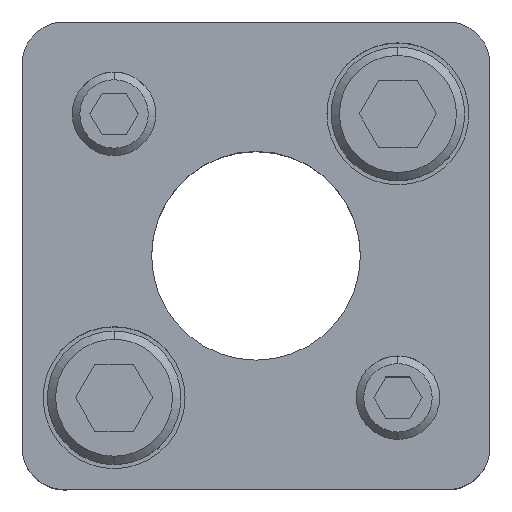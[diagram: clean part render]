
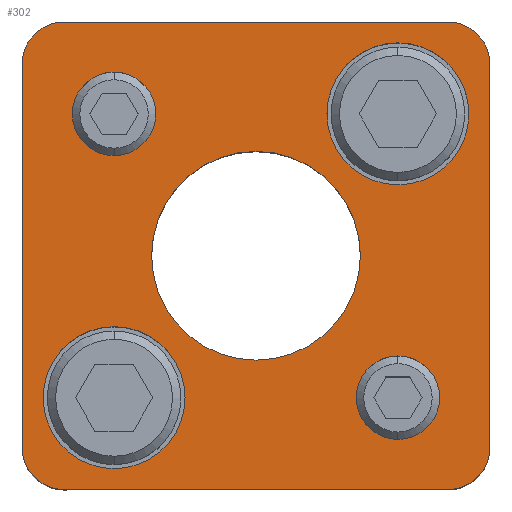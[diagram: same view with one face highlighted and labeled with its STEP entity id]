
A CAD part, top view. The second image highlights one B-rep face of the part: STEP entity #302.
In plain terms, the highlighted planar face has unit normal (0, 0, 1).
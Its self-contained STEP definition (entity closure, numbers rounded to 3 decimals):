
#161=PLANE('',#2460);
#224=FACE_BOUND('',#627,.T.);
#225=FACE_BOUND('',#628,.T.);
#226=FACE_BOUND('',#629,.T.);
#227=FACE_BOUND('',#630,.T.);
#228=FACE_BOUND('',#631,.T.);
#229=FACE_BOUND('',#632,.T.);
#302=ADVANCED_FACE('',(#224,#225,#226,#227,#228,#229),#161,.T.);
#627=EDGE_LOOP('',(#1277,#1278,#1279,#1280,#1281,#1282,#1283,#1284));
#628=EDGE_LOOP('',(#1285,#1286));
#629=EDGE_LOOP('',(#1287,#1288));
#630=EDGE_LOOP('',(#1289,#1290));
#631=EDGE_LOOP('',(#1291,#1292));
#632=EDGE_LOOP('',(#1293,#1294));
#779=LINE('',#3601,#949);
#780=LINE('',#3605,#950);
#781=LINE('',#3609,#951);
#782=LINE('',#3613,#952);
#949=VECTOR('',#2877,1.);
#950=VECTOR('',#2880,1.);
#951=VECTOR('',#2883,1.);
#952=VECTOR('',#2886,1.);
#1277=ORIENTED_EDGE('',*,*,#2005,.T.);
#1278=ORIENTED_EDGE('',*,*,#2006,.T.);
#1279=ORIENTED_EDGE('',*,*,#2007,.T.);
#1280=ORIENTED_EDGE('',*,*,#2008,.T.);
#1281=ORIENTED_EDGE('',*,*,#2009,.T.);
#1282=ORIENTED_EDGE('',*,*,#2010,.T.);
#1283=ORIENTED_EDGE('',*,*,#2011,.T.);
#1284=ORIENTED_EDGE('',*,*,#2012,.T.);
#1285=ORIENTED_EDGE('',*,*,#2013,.F.);
#1286=ORIENTED_EDGE('',*,*,#2014,.F.);
#1287=ORIENTED_EDGE('',*,*,#2015,.F.);
#1288=ORIENTED_EDGE('',*,*,#2016,.F.);
#1289=ORIENTED_EDGE('',*,*,#1991,.F.);
#1290=ORIENTED_EDGE('',*,*,#1987,.F.);
#1291=ORIENTED_EDGE('',*,*,#1985,.F.);
#1292=ORIENTED_EDGE('',*,*,#1981,.F.);
#1293=ORIENTED_EDGE('',*,*,#2017,.T.);
#1294=ORIENTED_EDGE('',*,*,#2018,.T.);
#1755=VERTEX_POINT('',#3549);
#1756=VERTEX_POINT('',#3550);
#1759=VERTEX_POINT('',#3562);
#1760=VERTEX_POINT('',#3563);
#1771=VERTEX_POINT('',#3599);
#1772=VERTEX_POINT('',#3600);
#1773=VERTEX_POINT('',#3602);
#1774=VERTEX_POINT('',#3604);
#1775=VERTEX_POINT('',#3606);
#1776=VERTEX_POINT('',#3608);
#1777=VERTEX_POINT('',#3610);
#1778=VERTEX_POINT('',#3612);
#1779=VERTEX_POINT('',#3615);
#1780=VERTEX_POINT('',#3616);
#1781=VERTEX_POINT('',#3619);
#1782=VERTEX_POINT('',#3620);
#1783=VERTEX_POINT('',#3623);
#1784=VERTEX_POINT('',#3624);
#1981=EDGE_CURVE('',#1755,#1756,#2255,.T.);
#1985=EDGE_CURVE('',#1756,#1755,#2257,.T.);
#1987=EDGE_CURVE('',#1759,#1760,#2259,.T.);
#1991=EDGE_CURVE('',#1760,#1759,#2261,.T.);
#2005=EDGE_CURVE('',#1771,#1772,#2271,.T.);
#2006=EDGE_CURVE('',#1772,#1773,#779,.T.);
#2007=EDGE_CURVE('',#1773,#1774,#2272,.T.);
#2008=EDGE_CURVE('',#1774,#1775,#780,.T.);
#2009=EDGE_CURVE('',#1775,#1776,#2273,.T.);
#2010=EDGE_CURVE('',#1776,#1777,#781,.T.);
#2011=EDGE_CURVE('',#1777,#1778,#2274,.T.);
#2012=EDGE_CURVE('',#1778,#1771,#782,.T.);
#2013=EDGE_CURVE('',#1779,#1780,#2275,.T.);
#2014=EDGE_CURVE('',#1780,#1779,#2276,.T.);
#2015=EDGE_CURVE('',#1781,#1782,#2277,.T.);
#2016=EDGE_CURVE('',#1782,#1781,#2278,.T.);
#2017=EDGE_CURVE('',#1783,#1784,#2279,.T.);
#2018=EDGE_CURVE('',#1784,#1783,#2280,.T.);
#2255=CIRCLE('',#2424,5.);
#2257=CIRCLE('',#2427,5.);
#2259=CIRCLE('',#2431,5.);
#2261=CIRCLE('',#2434,5.);
#2271=CIRCLE('',#2450,5.);
#2272=CIRCLE('',#2451,5.);
#2273=CIRCLE('',#2452,5.);
#2274=CIRCLE('',#2453,5.);
#2275=CIRCLE('',#2454,8.5);
#2276=CIRCLE('',#2455,8.5);
#2277=CIRCLE('',#2456,8.5);
#2278=CIRCLE('',#2457,8.5);
#2279=CIRCLE('',#2458,12.5);
#2280=CIRCLE('',#2459,12.5);
#2424=AXIS2_PLACEMENT_3D('',#3548,#2815,#2816);
#2427=AXIS2_PLACEMENT_3D('',#3557,#2823,#2824);
#2431=AXIS2_PLACEMENT_3D('',#3561,#2831,#2832);
#2434=AXIS2_PLACEMENT_3D('',#3570,#2839,#2840);
#2450=AXIS2_PLACEMENT_3D('',#3598,#2875,#2876);
#2451=AXIS2_PLACEMENT_3D('',#3603,#2878,#2879);
#2452=AXIS2_PLACEMENT_3D('',#3607,#2881,#2882);
#2453=AXIS2_PLACEMENT_3D('',#3611,#2884,#2885);
#2454=AXIS2_PLACEMENT_3D('',#3614,#2887,#2888);
#2455=AXIS2_PLACEMENT_3D('',#3617,#2889,#2890);
#2456=AXIS2_PLACEMENT_3D('',#3618,#2891,#2892);
#2457=AXIS2_PLACEMENT_3D('',#3621,#2893,#2894);
#2458=AXIS2_PLACEMENT_3D('',#3622,#2895,#2896);
#2459=AXIS2_PLACEMENT_3D('',#3625,#2897,#2898);
#2460=AXIS2_PLACEMENT_3D('',#3626,#2899,#2900);
#2815=DIRECTION('',(0.,0.,1.));
#2816=DIRECTION('',(-1.,0.,0.));
#2823=DIRECTION('',(0.,0.,1.));
#2824=DIRECTION('',(1.,0.,0.));
#2831=DIRECTION('',(0.,0.,1.));
#2832=DIRECTION('',(-1.,0.,0.));
#2839=DIRECTION('',(0.,0.,1.));
#2840=DIRECTION('',(1.,0.,0.));
#2875=DIRECTION('',(0.,0.,1.));
#2876=DIRECTION('',(-0.707,0.707,0.));
#2877=DIRECTION('',(0.,1.,0.));
#2878=DIRECTION('',(0.,0.,1.));
#2879=DIRECTION('',(-0.707,-0.707,0.));
#2880=DIRECTION('',(-1.,0.,0.));
#2881=DIRECTION('',(0.,0.,1.));
#2882=DIRECTION('',(0.707,-0.707,0.));
#2883=DIRECTION('',(0.,-1.,0.));
#2884=DIRECTION('',(0.,0.,1.));
#2885=DIRECTION('',(0.707,0.707,0.));
#2886=DIRECTION('',(1.,0.,0.));
#2887=DIRECTION('',(0.,0.,1.));
#2888=DIRECTION('',(1.,0.,0.));
#2889=DIRECTION('',(0.,0.,1.));
#2890=DIRECTION('',(-1.,0.,0.));
#2891=DIRECTION('',(0.,0.,1.));
#2892=DIRECTION('',(1.,0.,0.));
#2893=DIRECTION('',(0.,0.,1.));
#2894=DIRECTION('',(-1.,0.,0.));
#2895=DIRECTION('',(0.,0.,-1.));
#2896=DIRECTION('',(-1.,0.,0.));
#2897=DIRECTION('',(0.,0.,-1.));
#2898=DIRECTION('',(1.,0.,0.));
#2899=DIRECTION('',(0.,0.,1.));
#2900=DIRECTION('',(-1.,0.,0.));
#3548=CARTESIAN_POINT('',(17.,-17.,35.));
#3549=CARTESIAN_POINT('',(17.,-22.,35.));
#3550=CARTESIAN_POINT('',(17.,-12.,35.));
#3557=CARTESIAN_POINT('',(17.,-17.,35.));
#3561=CARTESIAN_POINT('',(-17.,17.,35.));
#3562=CARTESIAN_POINT('',(-17.,12.,35.));
#3563=CARTESIAN_POINT('',(-17.,22.,35.));
#3570=CARTESIAN_POINT('',(-17.,17.,35.));
#3598=CARTESIAN_POINT('',(23.,-23.,35.));
#3599=CARTESIAN_POINT('',(23.,-28.,35.));
#3600=CARTESIAN_POINT('',(28.,-23.,35.));
#3601=CARTESIAN_POINT('',(28.,23.,35.));
#3602=CARTESIAN_POINT('',(28.,23.,35.));
#3603=CARTESIAN_POINT('',(23.,23.,35.));
#3604=CARTESIAN_POINT('',(23.,28.,35.));
#3605=CARTESIAN_POINT('',(-23.,28.,35.));
#3606=CARTESIAN_POINT('',(-23.,28.,35.));
#3607=CARTESIAN_POINT('',(-23.,23.,35.));
#3608=CARTESIAN_POINT('',(-28.,23.,35.));
#3609=CARTESIAN_POINT('',(-28.,23.,35.));
#3610=CARTESIAN_POINT('',(-28.,-23.,35.));
#3611=CARTESIAN_POINT('',(-23.,-23.,35.));
#3612=CARTESIAN_POINT('',(-23.,-28.,35.));
#3613=CARTESIAN_POINT('',(-23.,-28.,35.));
#3614=CARTESIAN_POINT('',(17.,17.,35.));
#3615=CARTESIAN_POINT('',(17.,25.5,35.));
#3616=CARTESIAN_POINT('',(17.,8.5,35.));
#3617=CARTESIAN_POINT('',(17.,17.,35.));
#3618=CARTESIAN_POINT('',(-17.,-17.,35.));
#3619=CARTESIAN_POINT('',(-17.,-8.5,35.));
#3620=CARTESIAN_POINT('',(-17.,-25.5,35.));
#3621=CARTESIAN_POINT('',(-17.,-17.,35.));
#3622=CARTESIAN_POINT('',(0.,0.,35.));
#3623=CARTESIAN_POINT('',(0.,12.5,35.));
#3624=CARTESIAN_POINT('',(0.,-12.5,35.));
#3625=CARTESIAN_POINT('',(0.,0.,35.));
#3626=CARTESIAN_POINT('',(23.,-28.,35.));
